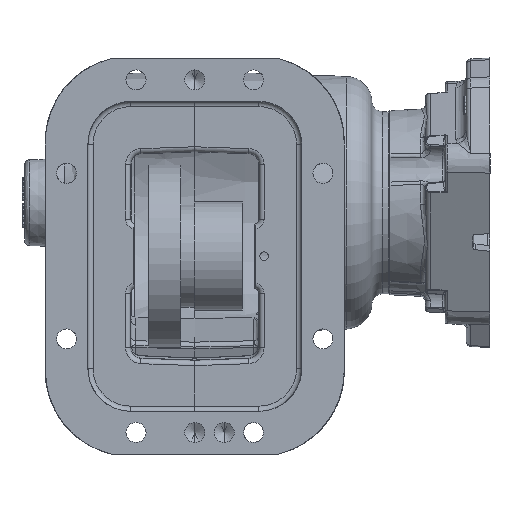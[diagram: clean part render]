
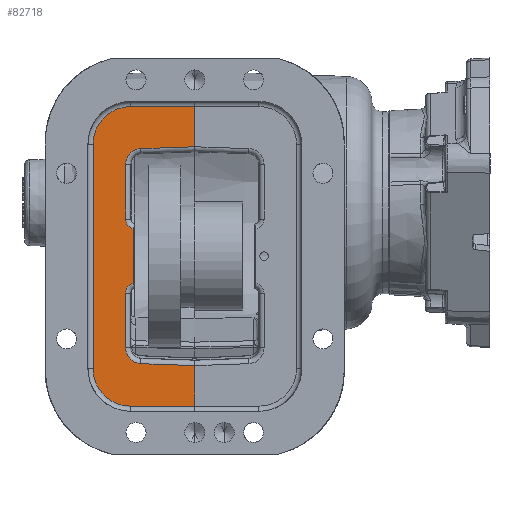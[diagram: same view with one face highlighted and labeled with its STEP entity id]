
A CAD part, front view. The second image highlights one B-rep face of the part: STEP entity #82718.
In plain terms, the highlighted planar face has unit normal (0, -1, 0).
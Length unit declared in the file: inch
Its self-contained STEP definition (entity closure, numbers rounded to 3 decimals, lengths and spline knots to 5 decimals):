
#4228 = VERTEX_POINT ( 'NONE', #44133 ) ;
#4636 = ORIENTED_EDGE ( 'NONE', *, *, #20048, .T. ) ;
#4963 = VERTEX_POINT ( 'NONE', #93646 ) ;
#5004 = VERTEX_POINT ( 'NONE', #48063 ) ;
#6452 = CARTESIAN_POINT ( 'NONE',  ( 0., -4.3, 3.37 ) ) ;
#6900 = CARTESIAN_POINT ( 'NONE',  ( -1.62, -4.3, -3.3962 ) ) ;
#7477 = EDGE_CURVE ( 'NONE', #35711, #4228, #91842, .T. ) ;
#7787 = CIRCLE ( 'NONE', #75709, 0.24 ) ;
#9289 = VECTOR ( 'NONE', #71441, 39.37008 ) ;
#9700 = DIRECTION ( 'NONE',  ( 0., 1., 0. ) ) ;
#10351 = EDGE_CURVE ( 'NONE', #109825, #61367, #7787, .T. ) ;
#10453 = CARTESIAN_POINT ( 'NONE',  ( -2.38, -4.3, -3.88 ) ) ;
#12522 = VERTEX_POINT ( 'NONE', #113054 ) ;
#14618 = ORIENTED_EDGE ( 'NONE', *, *, #40620, .T. ) ;
#15080 = LINE ( 'NONE', #81932, #44094 ) ;
#15376 = DIRECTION ( 'NONE',  ( 0., 0., 1. ) ) ;
#15653 = LINE ( 'NONE', #118965, #52799 ) ;
#17643 = VECTOR ( 'NONE', #56705, 39.37008 ) ;
#17978 = EDGE_CURVE ( 'NONE', #79501, #28136, #36153, .T. ) ;
#19204 = DIRECTION ( 'NONE',  ( 0., 0., -1. ) ) ;
#19460 = CIRCLE ( 'NONE', #64103, 0.37 ) ;
#20015 = AXIS2_PLACEMENT_3D ( 'NONE', #87997, #49735, #41771 ) ;
#20048 = EDGE_CURVE ( 'NONE', #37379, #28136, #49878, .T. ) ;
#20728 = LINE ( 'NONE', #94869, #45960 ) ;
#21597 = CIRCLE ( 'NONE', #85716, 0.37 ) ;
#25096 = VECTOR ( 'NONE', #66305, 39.37008 ) ;
#25727 = DIRECTION ( 'NONE',  ( 0., 0., -1. ) ) ;
#25762 = DIRECTION ( 'NONE',  ( 0., 1., 0. ) ) ;
#27567 = VECTOR ( 'NONE', #19204, 39.37008 ) ;
#28136 = VERTEX_POINT ( 'NONE', #69382 ) ;
#28912 = CARTESIAN_POINT ( 'NONE',  ( -2.38, -4.3, -3.88 ) ) ;
#30674 = DIRECTION ( 'NONE',  ( -1., 0., 0. ) ) ;
#30739 = DIRECTION ( 'NONE',  ( 0., 0., 1. ) ) ;
#31134 = CIRCLE ( 'NONE', #67994, 0.88 ) ;
#34725 = DIRECTION ( 'NONE',  ( 0., -1., 0. ) ) ;
#34893 = ORIENTED_EDGE ( 'NONE', *, *, #76248, .T. ) ;
#35384 = DIRECTION ( 'NONE',  ( 0., -1., 0. ) ) ;
#35711 = VERTEX_POINT ( 'NONE', #74319 ) ;
#36153 = LINE ( 'NONE', #6452, #9289 ) ;
#36919 = CARTESIAN_POINT ( 'NONE',  ( -1.5, -4.3, -4.76 ) ) ;
#37379 = VERTEX_POINT ( 'NONE', #89019 ) ;
#37771 = CARTESIAN_POINT ( 'NONE',  ( -1.62, -4.3, -2.11752 ) ) ;
#38824 = DIRECTION ( 'NONE',  ( 0., 0., 1. ) ) ;
#39451 = VERTEX_POINT ( 'NONE', #69150 ) ;
#40620 = EDGE_CURVE ( 'NONE', #81026, #12522, #15080, .T. ) ;
#41594 = ORIENTED_EDGE ( 'NONE', *, *, #91040, .T. ) ;
#41771 = DIRECTION ( 'NONE',  ( 0., 0., 1. ) ) ;
#42351 = VECTOR ( 'NONE', #111644, 39.37008 ) ;
#44094 = VECTOR ( 'NONE', #109838, 39.37008 ) ;
#44133 = CARTESIAN_POINT ( 'NONE',  ( -1.62, -4.3, -0.38248 ) ) ;
#44591 = CARTESIAN_POINT ( 'NONE',  ( -3.5, -4.3, 3.37 ) ) ;
#45188 = FACE_OUTER_BOUND ( 'NONE', #54520, .T. ) ;
#45960 = VECTOR ( 'NONE', #74831, 39.37008 ) ;
#46326 = LINE ( 'NONE', #83437, #94675 ) ;
#48017 = EDGE_CURVE ( 'NONE', #114452, #5004, #67009, .T. ) ;
#48063 = CARTESIAN_POINT ( 'NONE',  ( 0., -4.3, -4.76 ) ) ;
#49735 = DIRECTION ( 'NONE',  ( 0., 1., 0. ) ) ;
#49878 = LINE ( 'NONE', #113116, #25096 ) ;
#50216 = EDGE_CURVE ( 'NONE', #118646, #4963, #60475, .T. ) ;
#50780 = AXIS2_PLACEMENT_3D ( 'NONE', #116876, #35384, #15376 ) ;
#51119 = ORIENTED_EDGE ( 'NONE', *, *, #17978, .F. ) ;
#52799 = VECTOR ( 'NONE', #117739, 39.37008 ) ;
#54520 = EDGE_LOOP ( 'NONE', ( #74423, #14618, #106627, #41594, #66435, #34893, #103395, #90597, #93889, #4636, #51119, #62725, #93660, #80443, #94732, #110692 ) ) ;
#55858 = CARTESIAN_POINT ( 'NONE',  ( -1.38, -4.3, -2.11752 ) ) ;
#56705 = DIRECTION ( 'NONE',  ( 1., 0., 0. ) ) ;
#56782 = EDGE_CURVE ( 'NONE', #79501, #118646, #67740, .T. ) ;
#58078 = DIRECTION ( 'NONE',  ( 0., 1., 0. ) ) ;
#60475 = CIRCLE ( 'NONE', #50780, 0.88 ) ;
#61367 = VERTEX_POINT ( 'NONE', #90851 ) ;
#62522 = EDGE_CURVE ( 'NONE', #81026, #5004, #46326, .T. ) ;
#62725 = ORIENTED_EDGE ( 'NONE', *, *, #56782, .T. ) ;
#63039 = EDGE_CURVE ( 'NONE', #4228, #39451, #72790, .T. ) ;
#64103 = AXIS2_PLACEMENT_3D ( 'NONE', #102553, #100770, #83162 ) ;
#66305 = DIRECTION ( 'NONE',  ( 0.999, 0., 0.035 ) ) ;
#66435 = ORIENTED_EDGE ( 'NONE', *, *, #10351, .T. ) ;
#67009 = LINE ( 'NONE', #85899, #17643 ) ;
#67740 = LINE ( 'NONE', #86000, #70903 ) ;
#67994 = AXIS2_PLACEMENT_3D ( 'NONE', #98560, #34725, #118640 ) ;
#69150 = CARTESIAN_POINT ( 'NONE',  ( -1.62, -4.3, 0.8962 ) ) ;
#69382 = CARTESIAN_POINT ( 'NONE',  ( 0., -4.3, 1.31007 ) ) ;
#70903 = VECTOR ( 'NONE', #30674, 39.37008 ) ;
#71441 = DIRECTION ( 'NONE',  ( 0., 0., -1. ) ) ;
#71750 = CARTESIAN_POINT ( 'NONE',  ( 0., -4.3, 2.25 ) ) ;
#71820 = AXIS2_PLACEMENT_3D ( 'NONE', #44591, #25762, #99884 ) ;
#72790 = LINE ( 'NONE', #83152, #42351 ) ;
#74319 = CARTESIAN_POINT ( 'NONE',  ( -1.43, -4.3, -0.61722 ) ) ;
#74423 = ORIENTED_EDGE ( 'NONE', *, *, #62522, .F. ) ;
#74831 = DIRECTION ( 'NONE',  ( 0., 0., 1. ) ) ;
#75709 = AXIS2_PLACEMENT_3D ( 'NONE', #55858, #9700, #38824 ) ;
#76248 = EDGE_CURVE ( 'NONE', #61367, #35711, #20728, .T. ) ;
#76335 = CARTESIAN_POINT ( 'NONE',  ( -1.25, -4.3, 0.8962 ) ) ;
#79501 = VERTEX_POINT ( 'NONE', #71750 ) ;
#80443 = ORIENTED_EDGE ( 'NONE', *, *, #90406, .T. ) ;
#81026 = VERTEX_POINT ( 'NONE', #110487 ) ;
#81932 = CARTESIAN_POINT ( 'NONE',  ( -1.26291, -4.3, -3.76597 ) ) ;
#82718 = ADVANCED_FACE ( 'NONE', ( #45188 ), #109029, .F. ) ;
#83152 = CARTESIAN_POINT ( 'NONE',  ( -1.62, -4.3, 0.8962 ) ) ;
#83162 = DIRECTION ( 'NONE',  ( 0., 0., 1. ) ) ;
#83437 = CARTESIAN_POINT ( 'NONE',  ( 0., -4.3, 3.37 ) ) ;
#85716 = AXIS2_PLACEMENT_3D ( 'NONE', #76335, #58078, #30739 ) ;
#85899 = CARTESIAN_POINT ( 'NONE',  ( 0., -4.3, -4.76 ) ) ;
#86000 = CARTESIAN_POINT ( 'NONE',  ( -1.5, -4.3, 2.25 ) ) ;
#86703 = EDGE_CURVE ( 'NONE', #109932, #114452, #31134, .T. ) ;
#87997 = CARTESIAN_POINT ( 'NONE',  ( -1.38, -4.3, -0.38248 ) ) ;
#88505 = EDGE_CURVE ( 'NONE', #39451, #37379, #21597, .T. ) ;
#89019 = CARTESIAN_POINT ( 'NONE',  ( -1.26291, -4.3, 1.26597 ) ) ;
#90406 = EDGE_CURVE ( 'NONE', #4963, #109932, #102443, .T. ) ;
#90597 = ORIENTED_EDGE ( 'NONE', *, *, #63039, .T. ) ;
#90851 = CARTESIAN_POINT ( 'NONE',  ( -1.43, -4.3, -1.88278 ) ) ;
#91040 = EDGE_CURVE ( 'NONE', #107924, #109825, #15653, .T. ) ;
#91842 = CIRCLE ( 'NONE', #20015, 0.24 ) ;
#93439 = CARTESIAN_POINT ( 'NONE',  ( -1.5, -4.3, 2.25 ) ) ;
#93646 = CARTESIAN_POINT ( 'NONE',  ( -2.38, -4.3, 1.37 ) ) ;
#93660 = ORIENTED_EDGE ( 'NONE', *, *, #50216, .T. ) ;
#93889 = ORIENTED_EDGE ( 'NONE', *, *, #88505, .T. ) ;
#94675 = VECTOR ( 'NONE', #25727, 39.37008 ) ;
#94732 = ORIENTED_EDGE ( 'NONE', *, *, #86703, .T. ) ;
#94869 = CARTESIAN_POINT ( 'NONE',  ( -1.43, -4.3, -0.61722 ) ) ;
#98560 = CARTESIAN_POINT ( 'NONE',  ( -1.5, -4.3, -3.88 ) ) ;
#99884 = DIRECTION ( 'NONE',  ( 0., 0., 1. ) ) ;
#100770 = DIRECTION ( 'NONE',  ( 0., 1., 0. ) ) ;
#102443 = LINE ( 'NONE', #28912, #27567 ) ;
#102553 = CARTESIAN_POINT ( 'NONE',  ( -1.25, -4.3, -3.3962 ) ) ;
#103395 = ORIENTED_EDGE ( 'NONE', *, *, #7477, .T. ) ;
#106627 = ORIENTED_EDGE ( 'NONE', *, *, #107397, .T. ) ;
#107397 = EDGE_CURVE ( 'NONE', #12522, #107924, #19460, .T. ) ;
#107924 = VERTEX_POINT ( 'NONE', #6900 ) ;
#109029 = PLANE ( 'NONE',  #71820 ) ;
#109825 = VERTEX_POINT ( 'NONE', #37771 ) ;
#109838 = DIRECTION ( 'NONE',  ( -0.999, 0., 0.035 ) ) ;
#109932 = VERTEX_POINT ( 'NONE', #10453 ) ;
#110487 = CARTESIAN_POINT ( 'NONE',  ( 0., -4.3, -3.81007 ) ) ;
#110692 = ORIENTED_EDGE ( 'NONE', *, *, #48017, .T. ) ;
#111644 = DIRECTION ( 'NONE',  ( 0., 0., 1. ) ) ;
#113054 = CARTESIAN_POINT ( 'NONE',  ( -1.26291, -4.3, -3.76597 ) ) ;
#113116 = CARTESIAN_POINT ( 'NONE',  ( -0.00419, -4.3, 1.30993 ) ) ;
#114452 = VERTEX_POINT ( 'NONE', #36919 ) ;
#116876 = CARTESIAN_POINT ( 'NONE',  ( -1.5, -4.3, 1.37 ) ) ;
#117739 = DIRECTION ( 'NONE',  ( 0., 0., 1. ) ) ;
#118640 = DIRECTION ( 'NONE',  ( 0., 0., 1. ) ) ;
#118646 = VERTEX_POINT ( 'NONE', #93439 ) ;
#118965 = CARTESIAN_POINT ( 'NONE',  ( -1.62, -4.3, -2.11752 ) ) ;
